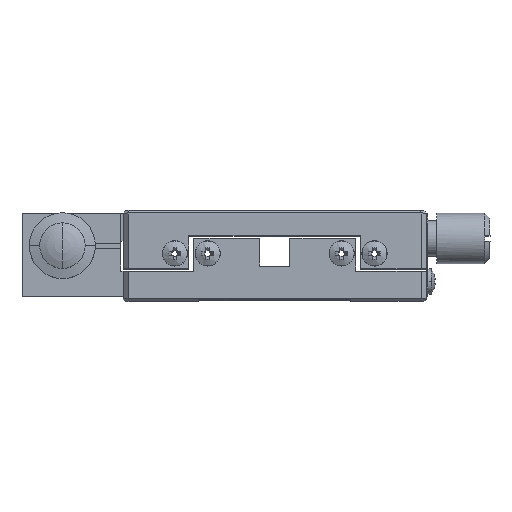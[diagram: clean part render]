
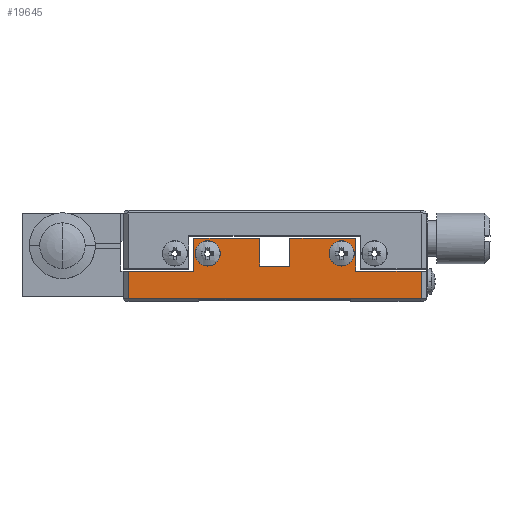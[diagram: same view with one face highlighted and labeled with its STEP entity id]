
A CAD part, top view. The second image highlights one B-rep face of the part: STEP entity #19645.
In plain terms, the highlighted planar face has unit normal (0, 0, -1).
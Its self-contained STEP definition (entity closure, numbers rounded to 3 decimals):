
#117 = EDGE_CURVE ( 'NONE', #16313, #15936, #18053, .T. ) ;
#201 = CARTESIAN_POINT ( 'NONE',  ( -8.119, 29.88, 26. ) ) ;
#213 = CIRCLE ( 'NONE', #21970, 2.5 ) ;
#468 = CIRCLE ( 'NONE', #2565, 2.5 ) ;
#519 = VECTOR ( 'NONE', #8147, 1000. ) ;
#858 = EDGE_CURVE ( 'NONE', #17724, #12435, #21953, .T. ) ;
#962 = EDGE_CURVE ( 'NONE', #21103, #22689, #18860, .T. ) ;
#1213 = CARTESIAN_POINT ( 'NONE',  ( -47.869, 20.88, 26. ) ) ;
#1262 = CIRCLE ( 'NONE', #7790, 2.5 ) ;
#1502 = CARTESIAN_POINT ( 'NONE',  ( -48.869, 20.88, 26. ) ) ;
#1639 = ORIENTED_EDGE ( 'NONE', *, *, #5800, .F. ) ;
#1917 = ORIENTED_EDGE ( 'NONE', *, *, #858, .F. ) ;
#1955 = EDGE_CURVE ( 'NONE', #17384, #10338, #12430, .T. ) ;
#2565 = AXIS2_PLACEMENT_3D ( 'NONE', #6905, #6825, #21245 ) ;
#2591 = ORIENTED_EDGE ( 'NONE', *, *, #9036, .F. ) ;
#2661 = CARTESIAN_POINT ( 'NONE',  ( -2.869, 26.38, 26. ) ) ;
#2843 = EDGE_LOOP ( 'NONE', ( #15304, #16340 ) ) ;
#2854 = VECTOR ( 'NONE', #11778, 1000. ) ;
#2868 = DIRECTION ( 'NONE',  ( 0., 0., -1. ) ) ;
#3094 = ORIENTED_EDGE ( 'NONE', *, *, #12306, .F. ) ;
#3285 = DIRECTION ( 'NONE',  ( 0., 0., -1. ) ) ;
#3552 = LINE ( 'NONE', #9729, #7161 ) ;
#3652 = EDGE_CURVE ( 'NONE', #9721, #14593, #1262, .T. ) ;
#4832 = DIRECTION ( 'NONE',  ( 0., 1., 0. ) ) ;
#4957 = DIRECTION ( 'NONE',  ( -1., 0., 0. ) ) ;
#5215 = CARTESIAN_POINT ( 'NONE',  ( -34.869, 26.38, 26. ) ) ;
#5434 = EDGE_CURVE ( 'NONE', #10338, #15105, #8425, .T. ) ;
#5539 = LINE ( 'NONE', #17243, #15775 ) ;
#5580 = CARTESIAN_POINT ( 'NONE',  ( -32.119, 27.38, 26. ) ) ;
#5800 = EDGE_CURVE ( 'NONE', #12435, #16313, #14196, .T. ) ;
#5822 = VECTOR ( 'NONE', #10904, 1000. ) ;
#5935 = VECTOR ( 'NONE', #15624, 1000. ) ;
#5978 = CARTESIAN_POINT ( 'NONE',  ( -15.869, 27.38, 26. ) ) ;
#6207 = EDGE_LOOP ( 'NONE', ( #18216, #6969 ) ) ;
#6343 = CARTESIAN_POINT ( 'NONE',  ( -47.869, 20.38, 26. ) ) ;
#6375 = LINE ( 'NONE', #7176, #5822 ) ;
#6825 = DIRECTION ( 'NONE',  ( 0., 0., -1. ) ) ;
#6905 = CARTESIAN_POINT ( 'NONE',  ( -5.619, 29.88, 26. ) ) ;
#6969 = ORIENTED_EDGE ( 'NONE', *, *, #12676, .F. ) ;
#7161 = VECTOR ( 'NONE', #13495, 1000. ) ;
#7176 = CARTESIAN_POINT ( 'NONE',  ( -2.869, 20.38, 26. ) ) ;
#7179 = LINE ( 'NONE', #10008, #20830 ) ;
#7402 = CARTESIAN_POINT ( 'NONE',  ( -3.119, 29.88, 26. ) ) ;
#7790 = AXIS2_PLACEMENT_3D ( 'NONE', #15596, #3285, #13591 ) ;
#8147 = DIRECTION ( 'NONE',  ( -1., 0., 0. ) ) ;
#8275 = FACE_BOUND ( 'NONE', #6207, .T. ) ;
#8425 = LINE ( 'NONE', #12612, #21267 ) ;
#8620 = ORIENTED_EDGE ( 'NONE', *, *, #1955, .F. ) ;
#9036 = EDGE_CURVE ( 'NONE', #18709, #17724, #18322, .T. ) ;
#9051 = CARTESIAN_POINT ( 'NONE',  ( -48.869, 20.38, 26. ) ) ;
#9083 = EDGE_CURVE ( 'NONE', #14593, #9721, #468, .T. ) ;
#9118 = VECTOR ( 'NONE', #11637, 1000. ) ;
#9279 = CARTESIAN_POINT ( 'NONE',  ( -15.869, 32.88, 26. ) ) ;
#9404 = ORIENTED_EDGE ( 'NONE', *, *, #5434, .F. ) ;
#9721 = VERTEX_POINT ( 'NONE', #7402 ) ;
#9729 = CARTESIAN_POINT ( 'NONE',  ( -21.869, 20.38, 26. ) ) ;
#10008 = CARTESIAN_POINT ( 'NONE',  ( -48.869, 27.38, 26. ) ) ;
#10338 = VERTEX_POINT ( 'NONE', #9279 ) ;
#10363 = VERTEX_POINT ( 'NONE', #22240 ) ;
#10408 = CARTESIAN_POINT ( 'NONE',  ( 10.131, 26.38, 26. ) ) ;
#10619 = CARTESIAN_POINT ( 'NONE',  ( -48.869, 26.38, 26. ) ) ;
#10719 = DIRECTION ( 'NONE',  ( 0., -1., 0. ) ) ;
#10773 = FACE_BOUND ( 'NONE', #2843, .T. ) ;
#10904 = DIRECTION ( 'NONE',  ( 0., 1., 0. ) ) ;
#11637 = DIRECTION ( 'NONE',  ( -1., 0., 0. ) ) ;
#11666 = VERTEX_POINT ( 'NONE', #5580 ) ;
#11778 = DIRECTION ( 'NONE',  ( -1., 0., 0. ) ) ;
#11926 = ORIENTED_EDGE ( 'NONE', *, *, #962, .F. ) ;
#12032 = EDGE_CURVE ( 'NONE', #22689, #17384, #6375, .T. ) ;
#12170 = ORIENTED_EDGE ( 'NONE', *, *, #12773, .F. ) ;
#12179 = CARTESIAN_POINT ( 'NONE',  ( -47.869, 26.38, 26. ) ) ;
#12306 = EDGE_CURVE ( 'NONE', #10363, #21103, #5539, .T. ) ;
#12430 = LINE ( 'NONE', #15033, #9118 ) ;
#12435 = VERTEX_POINT ( 'NONE', #5215 ) ;
#12612 = CARTESIAN_POINT ( 'NONE',  ( -15.869, 20.38, 26. ) ) ;
#12676 = EDGE_CURVE ( 'NONE', #21614, #11666, #213, .T. ) ;
#12773 = EDGE_CURVE ( 'NONE', #15105, #15733, #7179, .T. ) ;
#12841 = EDGE_CURVE ( 'NONE', #11666, #21614, #19146, .T. ) ;
#13495 = DIRECTION ( 'NONE',  ( 0., 1., 0. ) ) ;
#13530 = FACE_OUTER_BOUND ( 'NONE', #21741, .T. ) ;
#13538 = VECTOR ( 'NONE', #17536, 1000. ) ;
#13552 = CARTESIAN_POINT ( 'NONE',  ( -32.119, 29.88, 26. ) ) ;
#13591 = DIRECTION ( 'NONE',  ( 1., 0., 0. ) ) ;
#13703 = DIRECTION ( 'NONE',  ( 0., -1., 0. ) ) ;
#13800 = EDGE_CURVE ( 'NONE', #15733, #18709, #3552, .T. ) ;
#14196 = LINE ( 'NONE', #15356, #2854 ) ;
#14385 = DIRECTION ( 'NONE',  ( 1., 0., 0. ) ) ;
#14593 = VERTEX_POINT ( 'NONE', #201 ) ;
#15033 = CARTESIAN_POINT ( 'NONE',  ( -48.869, 32.88, 26. ) ) ;
#15105 = VERTEX_POINT ( 'NONE', #5978 ) ;
#15304 = ORIENTED_EDGE ( 'NONE', *, *, #3652, .F. ) ;
#15356 = CARTESIAN_POINT ( 'NONE',  ( -48.869, 26.38, 26. ) ) ;
#15596 = CARTESIAN_POINT ( 'NONE',  ( -5.619, 29.88, 26. ) ) ;
#15624 = DIRECTION ( 'NONE',  ( -1., 0., 0. ) ) ;
#15733 = VERTEX_POINT ( 'NONE', #20351 ) ;
#15775 = VECTOR ( 'NONE', #4832, 1000. ) ;
#15797 = DIRECTION ( 'NONE',  ( 0., 0., -1. ) ) ;
#15936 = VERTEX_POINT ( 'NONE', #1213 ) ;
#16200 = CARTESIAN_POINT ( 'NONE',  ( -2.869, 32.88, 26. ) ) ;
#16313 = VERTEX_POINT ( 'NONE', #12179 ) ;
#16340 = ORIENTED_EDGE ( 'NONE', *, *, #9083, .F. ) ;
#16744 = CARTESIAN_POINT ( 'NONE',  ( -34.869, 20.38, 26. ) ) ;
#16828 = DIRECTION ( 'NONE',  ( 0., -1., 0. ) ) ;
#16883 = VECTOR ( 'NONE', #16828, 1000. ) ;
#16981 = CARTESIAN_POINT ( 'NONE',  ( -48.869, 32.88, 26. ) ) ;
#17243 = CARTESIAN_POINT ( 'NONE',  ( 10.131, 20.38, 26. ) ) ;
#17384 = VERTEX_POINT ( 'NONE', #16200 ) ;
#17536 = DIRECTION ( 'NONE',  ( -1., 0., 0. ) ) ;
#17724 = VERTEX_POINT ( 'NONE', #18011 ) ;
#17772 = ORIENTED_EDGE ( 'NONE', *, *, #117, .F. ) ;
#17852 = DIRECTION ( 'NONE',  ( 0., 0., 1. ) ) ;
#17858 = ORIENTED_EDGE ( 'NONE', *, *, #22319, .T. ) ;
#18005 = PLANE ( 'NONE',  #18184 ) ;
#18011 = CARTESIAN_POINT ( 'NONE',  ( -34.869, 32.88, 26. ) ) ;
#18053 = LINE ( 'NONE', #6343, #18339 ) ;
#18184 = AXIS2_PLACEMENT_3D ( 'NONE', #9051, #17852, #14385 ) ;
#18216 = ORIENTED_EDGE ( 'NONE', *, *, #12841, .F. ) ;
#18322 = LINE ( 'NONE', #16981, #519 ) ;
#18339 = VECTOR ( 'NONE', #20589, 1000. ) ;
#18709 = VERTEX_POINT ( 'NONE', #20131 ) ;
#18860 = LINE ( 'NONE', #10619, #13538 ) ;
#18904 = ORIENTED_EDGE ( 'NONE', *, *, #13800, .F. ) ;
#19032 = DIRECTION ( 'NONE',  ( 0., -1., 0. ) ) ;
#19146 = CIRCLE ( 'NONE', #21527, 2.5 ) ;
#19314 = LINE ( 'NONE', #1502, #5935 ) ;
#19645 = ADVANCED_FACE ( 'NONE', ( #8275, #10773, #13530 ), #18005, .F. ) ;
#20131 = CARTESIAN_POINT ( 'NONE',  ( -21.869, 32.88, 26. ) ) ;
#20351 = CARTESIAN_POINT ( 'NONE',  ( -21.869, 27.38, 26. ) ) ;
#20589 = DIRECTION ( 'NONE',  ( 0., -1., 0. ) ) ;
#20830 = VECTOR ( 'NONE', #4957, 1000. ) ;
#20879 = ORIENTED_EDGE ( 'NONE', *, *, #12032, .F. ) ;
#21061 = CARTESIAN_POINT ( 'NONE',  ( -32.119, 32.38, 26. ) ) ;
#21103 = VERTEX_POINT ( 'NONE', #10408 ) ;
#21245 = DIRECTION ( 'NONE',  ( 1., 0., 0. ) ) ;
#21267 = VECTOR ( 'NONE', #10719, 1000. ) ;
#21527 = AXIS2_PLACEMENT_3D ( 'NONE', #22813, #15797, #13703 ) ;
#21614 = VERTEX_POINT ( 'NONE', #21061 ) ;
#21741 = EDGE_LOOP ( 'NONE', ( #11926, #3094, #17858, #17772, #1639, #1917, #2591, #18904, #12170, #9404, #8620, #20879 ) ) ;
#21953 = LINE ( 'NONE', #16744, #16883 ) ;
#21970 = AXIS2_PLACEMENT_3D ( 'NONE', #13552, #2868, #19032 ) ;
#22240 = CARTESIAN_POINT ( 'NONE',  ( 10.131, 20.88, 26. ) ) ;
#22319 = EDGE_CURVE ( 'NONE', #10363, #15936, #19314, .T. ) ;
#22689 = VERTEX_POINT ( 'NONE', #2661 ) ;
#22813 = CARTESIAN_POINT ( 'NONE',  ( -32.119, 29.88, 26. ) ) ;
